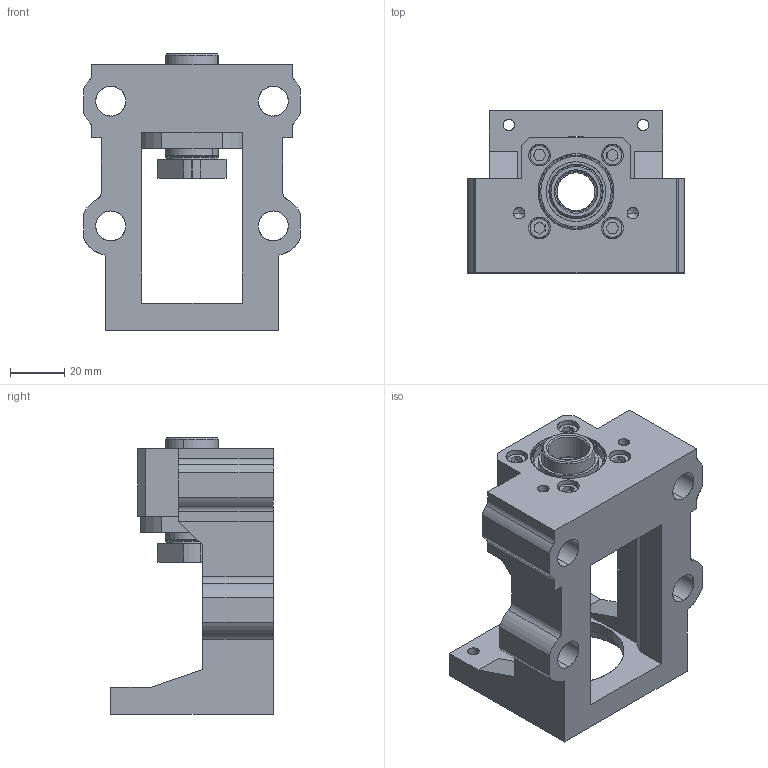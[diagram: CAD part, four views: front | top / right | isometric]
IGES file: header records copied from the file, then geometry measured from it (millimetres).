
Start section: SolidWorks IGES file using analytic representation for surfaces
Global section: file name: C:\Users\117\Desktop\MBCE15-D.IGS; native system: SolidWorks 2018; preprocessor: SolidWorks 2018; author: 117; date: 230112.100231; units: millimetre
Bounding box: 80 x 60 x 102 mm (x, y, z)
Surface area: 63826 mm2 (no closed solid volume)
Topology: 0 solids, 0 shells, 554 faces, 10176 edges, 10096 vertices
Faces by surface type: revolution 322, bspline 232
